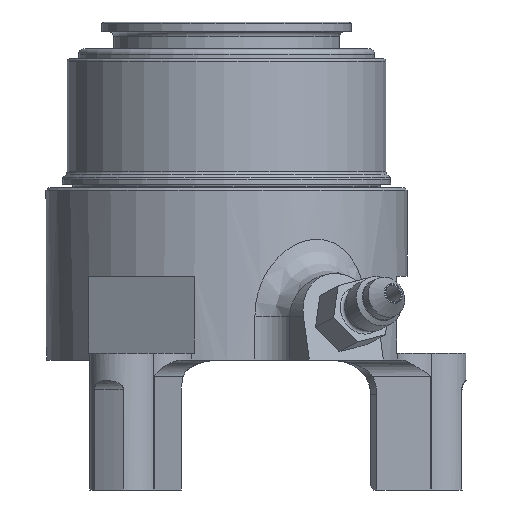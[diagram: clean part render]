
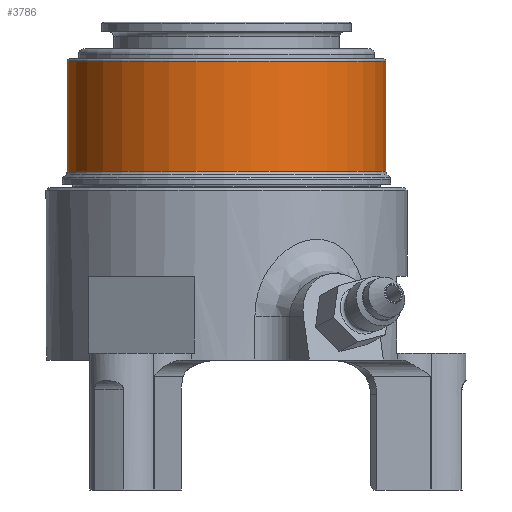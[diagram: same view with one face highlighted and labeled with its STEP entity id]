
A CAD part, left-side view. The second image highlights one B-rep face of the part: STEP entity #3786.
In plain terms, the highlighted cylindrical face has radius 29.591 mm (diameter 59.182 mm), a full revolution.
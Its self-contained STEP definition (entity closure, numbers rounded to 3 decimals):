
#109=CYLINDRICAL_SURFACE('',#4068,29.591);
#1019=ORIENTED_EDGE('',*,*,#1448,.F.);
#1020=ORIENTED_EDGE('',*,*,#1450,.T.);
#1448=EDGE_CURVE('',#1717,#1717,#1899,.T.);
#1450=EDGE_CURVE('',#1719,#1719,#1901,.T.);
#1717=VERTEX_POINT('',#6395);
#1719=VERTEX_POINT('',#6400);
#1899=CIRCLE('',#4049,29.591);
#1901=CIRCLE('',#4052,29.591);
#2103=EDGE_LOOP('',(#1019));
#2104=EDGE_LOOP('',(#1020));
#2361=FACE_BOUND('',#2103,.T.);
#2362=FACE_BOUND('',#2104,.T.);
#3786=ADVANCED_FACE('',(#2361,#2362),#109,.T.);
#4049=AXIS2_PLACEMENT_3D('',#6394,#4666,#4667);
#4052=AXIS2_PLACEMENT_3D('',#6399,#4672,#4673);
#4068=AXIS2_PLACEMENT_3D('',#6423,#4704,#4705);
#4666=DIRECTION('',(0.,0.,-1.));
#4667=DIRECTION('',(-0.933,0.359,0.));
#4672=DIRECTION('',(0.,0.,-1.));
#4673=DIRECTION('',(-0.933,0.359,0.));
#4704=DIRECTION('',(0.,0.,-1.));
#4705=DIRECTION('',(-0.933,0.359,0.));
#6394=CARTESIAN_POINT('',(0.,0.,59.175));
#6395=CARTESIAN_POINT('',(-27.614,10.634,59.175));
#6399=CARTESIAN_POINT('',(0.,0.,79.629));
#6400=CARTESIAN_POINT('',(-27.614,10.634,79.629));
#6423=CARTESIAN_POINT('',(0.,0.,-26.099));
